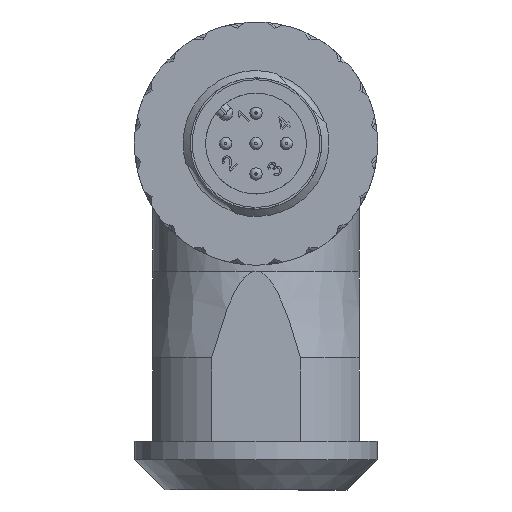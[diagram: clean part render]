
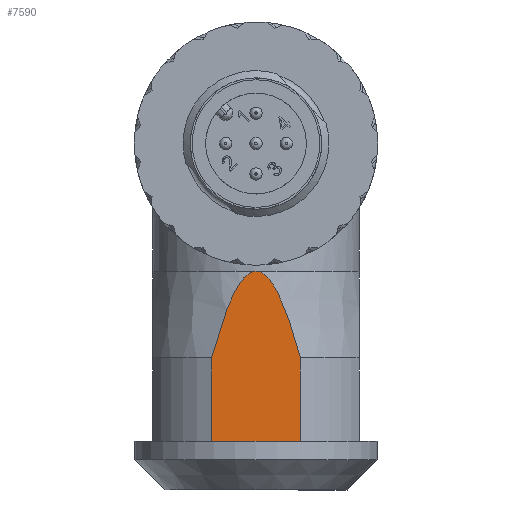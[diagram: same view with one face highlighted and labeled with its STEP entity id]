
A CAD part, front view. The second image highlights one B-rep face of the part: STEP entity #7590.
In plain terms, the highlighted planar face has unit normal (0, -1, 0).
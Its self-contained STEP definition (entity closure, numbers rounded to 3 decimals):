
#200=(
BOUNDED_CURVE()
B_SPLINE_CURVE(2,(#12735,#12736,#12737),.UNSPECIFIED.,.F.,.F.)
B_SPLINE_CURVE_WITH_KNOTS((3,3),(0.82,1.639),
 .UNSPECIFIED.)
CURVE()
GEOMETRIC_REPRESENTATION_ITEM()
RATIONAL_B_SPLINE_CURVE((1.,1.022,1.))
REPRESENTATION_ITEM('')
);
#202=(
BOUNDED_CURVE()
B_SPLINE_CURVE(2,(#12760,#12761,#12762),.UNSPECIFIED.,.F.,.F.)
B_SPLINE_CURVE_WITH_KNOTS((3,3),(0.,0.82),.UNSPECIFIED.)
CURVE()
GEOMETRIC_REPRESENTATION_ITEM()
RATIONAL_B_SPLINE_CURVE((1.,1.022,1.))
REPRESENTATION_ITEM('')
);
#892=FACE_OUTER_BOUND('',#1327,.T.);
#1327=EDGE_LOOP('',(#5949,#5950,#5951,#5952,#5953));
#1932=LINE('',#12724,#2581);
#1934=LINE('',#12730,#2583);
#1936=LINE('',#12743,#2585);
#2581=VECTOR('',#9496,10.);
#2583=VECTOR('',#9502,10.);
#2585=VECTOR('',#9510,10.);
#3250=VERTEX_POINT('',#12447);
#3276=VERTEX_POINT('',#12721);
#3277=VERTEX_POINT('',#12723);
#3279=VERTEX_POINT('',#12729);
#3281=VERTEX_POINT('',#12742);
#4206=EDGE_CURVE('',#3276,#3277,#1932,.T.);
#4209=EDGE_CURVE('',#3279,#3276,#1934,.T.);
#4212=EDGE_CURVE('',#3250,#3279,#200,.T.);
#4214=EDGE_CURVE('',#3277,#3281,#1936,.T.);
#4223=EDGE_CURVE('',#3281,#3250,#202,.T.);
#5949=ORIENTED_EDGE('',*,*,#4212,.F.);
#5950=ORIENTED_EDGE('',*,*,#4223,.F.);
#5951=ORIENTED_EDGE('',*,*,#4214,.F.);
#5952=ORIENTED_EDGE('',*,*,#4206,.F.);
#5953=ORIENTED_EDGE('',*,*,#4209,.F.);
#6839=PLANE('',#8114);
#7590=ADVANCED_FACE('',(#892),#6839,.F.);
#8114=AXIS2_PLACEMENT_3D('',#12783,#9538,#9539);
#9496=DIRECTION('',(-1.,0.,0.));
#9502=DIRECTION('',(0.,0.,-1.));
#9510=DIRECTION('',(0.,0.,1.));
#9538=DIRECTION('center_axis',(0.,1.,0.));
#9539=DIRECTION('ref_axis',(1.,0.,0.));
#12447=CARTESIAN_POINT('',(0.,8.3,-10.5));
#12721=CARTESIAN_POINT('',(3.649,8.3,-24.5));
#12723=CARTESIAN_POINT('',(-3.649,8.3,-24.5));
#12724=CARTESIAN_POINT('',(3.649,8.3,-24.5));
#12729=CARTESIAN_POINT('',(3.649,8.3,-17.636));
#12730=CARTESIAN_POINT('',(3.649,8.3,-21.068));
#12735=CARTESIAN_POINT('Ctrl Pts',(0.,8.3,
-10.5));
#12736=CARTESIAN_POINT('Ctrl Pts',(1.747,8.3,-10.5));
#12737=CARTESIAN_POINT('Ctrl Pts',(3.649,8.3,-17.636));
#12742=CARTESIAN_POINT('',(-3.649,8.3,-17.636));
#12743=CARTESIAN_POINT('',(-3.649,8.3,-21.068));
#12760=CARTESIAN_POINT('Ctrl Pts',(-3.649,8.3,-17.636));
#12761=CARTESIAN_POINT('Ctrl Pts',(-1.747,8.3,-10.5));
#12762=CARTESIAN_POINT('Ctrl Pts',(0.,8.3,
-10.5));
#12783=CARTESIAN_POINT('Origin',(-3.649,8.3,-24.5));
